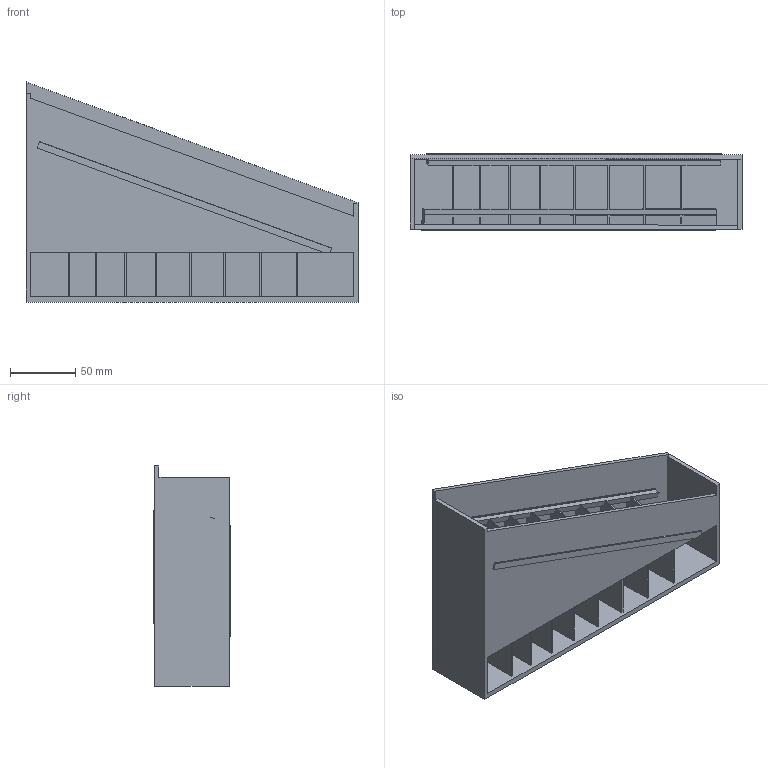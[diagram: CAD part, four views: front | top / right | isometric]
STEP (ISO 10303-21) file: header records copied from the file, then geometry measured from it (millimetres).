
FILE_DESCRIPTION(('Open CASCADE Model'),'2;1');
FILE_NAME('Open CASCADE Shape Model','2026-10-20T15:47:44',('Author'),( 'Open CASCADE'),'Open CASCADE STEP processor 8.0','build123d', 'Unknown');
FILE_SCHEMA(('AUTOMOTIVE_DESIGN { 1 0 10303 214 1 1 1 1 }'));
Length unit declared in the file: millimetre
Products named in the file (1): COMPOUND
Bounding box: 254.18 x 58.94 x 168.49 mm (x, y, z)
Volume: 314484.4 mm3; surface area: 231592.2 mm2
Topology: 1 solids, 1 shells, 146 faces, 440 edges, 288 vertices
Faces by surface type: plane 146
Entity records: 10253 total; most frequent: CARTESIAN_POINT 2084, DIRECTION 1285, LINE 991, VECTOR 991, ORIENTED_EDGE 880, PCURVE 880, DEFINITIONAL_REPRESENTATION 880, EDGE_CURVE 440
